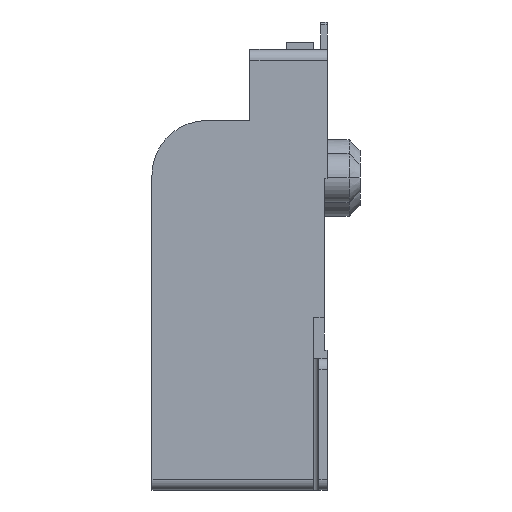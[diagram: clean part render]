
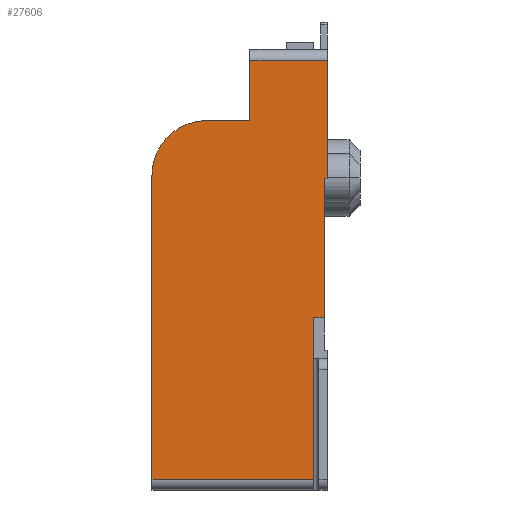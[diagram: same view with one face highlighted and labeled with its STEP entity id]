
A CAD part, left-side view. The second image highlights one B-rep face of the part: STEP entity #27606.
In plain terms, the highlighted planar face has unit normal (-1, 0, 0).
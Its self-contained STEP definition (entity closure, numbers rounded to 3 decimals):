
#1=CARTESIAN_POINT('',(-11.,2.2,1.8));
#2=DIRECTION('',(1.,0.,0.));
#3=DIRECTION('',(0.,1.,0.));
#4=AXIS2_PLACEMENT_3D('',#1,#2,#3);
#6=DIRECTION('',(0.,1.,0.));
#7=VECTOR('',#6,0.05);
#8=CARTESIAN_POINT('',(-11.,0.,1.75));
#9=LINE('',#8,#7);
#10=DIRECTION('',(0.,1.,0.));
#11=VECTOR('',#10,0.2);
#12=CARTESIAN_POINT('',(-11.,0.05,-0.8));
#13=LINE('',#12,#11);
#19=DIRECTION('',(0.,0.,1.));
#20=VECTOR('',#19,2.95);
#21=CARTESIAN_POINT('',(-11.,0.25,-3.75));
#22=LINE('',#21,#20);
#771=DIRECTION('',(0.,0.,1.));
#772=VECTOR('',#771,2.55);
#773=CARTESIAN_POINT('',(-11.,0.05,-0.8));
#774=LINE('',#773,#772);
#5215=DIRECTION('',(0.,0.,-1.));
#5216=VECTOR('',#5215,1.1);
#5217=CARTESIAN_POINT('',(-11.,1.41,3.9));
#5218=LINE('',#5217,#5216);
#5938=DIRECTION('',(0.,1.,0.));
#5939=VECTOR('',#5938,0.79);
#5940=CARTESIAN_POINT('',(-11.,1.41,2.8));
#5941=LINE('',#5940,#5939);
#5954=DIRECTION('',(0.,0.,-1.));
#5955=VECTOR('',#5954,5.55);
#5956=CARTESIAN_POINT('',(-11.,3.2,1.8));
#5957=LINE('',#5956,#5955);
#6024=DIRECTION('',(0.,-1.,0.));
#6025=VECTOR('',#6024,2.95);
#6026=CARTESIAN_POINT('',(-11.,3.2,-3.75));
#6027=LINE('',#6026,#6025);
#12967=DIRECTION('',(0.,1.,0.));
#12968=VECTOR('',#12967,1.41);
#12969=CARTESIAN_POINT('',(-11.,0.,3.9));
#12970=LINE('',#12969,#12968);
#12975=DIRECTION('',(0.,0.,1.));
#12976=VECTOR('',#12975,2.15);
#12977=CARTESIAN_POINT('',(-11.,0.,1.75));
#12978=LINE('',#12977,#12976);
#21112=CARTESIAN_POINT('',(-11.,0.25,-3.75));
#21113=CARTESIAN_POINT('',(-11.,0.25,-0.8));
#21114=VERTEX_POINT('',#21112);
#21115=VERTEX_POINT('',#21113);
#21116=CARTESIAN_POINT('',(-11.,3.2,-3.75));
#21117=VERTEX_POINT('',#21116);
#21118=CARTESIAN_POINT('',(-11.,3.2,1.8));
#21119=VERTEX_POINT('',#21118);
#21120=CARTESIAN_POINT('',(-11.,2.2,2.8));
#21121=VERTEX_POINT('',#21120);
#21122=CARTESIAN_POINT('',(-11.,1.41,2.8));
#21123=VERTEX_POINT('',#21122);
#21124=CARTESIAN_POINT('',(-11.,1.41,3.9));
#21125=VERTEX_POINT('',#21124);
#21126=CARTESIAN_POINT('',(-11.,0.,3.9));
#21127=VERTEX_POINT('',#21126);
#21128=CARTESIAN_POINT('',(-11.,0.,1.75));
#21129=VERTEX_POINT('',#21128);
#21130=CARTESIAN_POINT('',(-11.,0.05,1.75));
#21131=VERTEX_POINT('',#21130);
#21132=CARTESIAN_POINT('',(-11.,0.05,-0.8));
#21133=VERTEX_POINT('',#21132);
#27577=CARTESIAN_POINT('',(-11.,1.6,0.075));
#27578=DIRECTION('',(1.,0.,0.));
#27579=DIRECTION('',(0.,0.,-1.));
#27580=AXIS2_PLACEMENT_3D('',#27577,#27578,#27579);
#27581=PLANE('',#27580);
#27583=ORIENTED_EDGE('',*,*,#27582,.F.);
#27585=ORIENTED_EDGE('',*,*,#27584,.F.);
#27587=ORIENTED_EDGE('',*,*,#27586,.F.);
#27589=ORIENTED_EDGE('',*,*,#27588,.T.);
#27591=ORIENTED_EDGE('',*,*,#27590,.F.);
#27593=ORIENTED_EDGE('',*,*,#27592,.F.);
#27595=ORIENTED_EDGE('',*,*,#27594,.F.);
#27597=ORIENTED_EDGE('',*,*,#27596,.F.);
#27599=ORIENTED_EDGE('',*,*,#27598,.T.);
#27601=ORIENTED_EDGE('',*,*,#27600,.F.);
#27603=ORIENTED_EDGE('',*,*,#27602,.T.);
#27604=EDGE_LOOP('',(#27583,#27585,#27587,#27589,#27591,#27593,#27595,#27597,
#27599,#27601,#27603));
#27605=FACE_OUTER_BOUND('',#27604,.F.);
#27606=ADVANCED_FACE('',(#27605),#27581,.F.);
#5=CIRCLE('',#4,1.);
#27582=EDGE_CURVE('',#21114,#21115,#22,.T.);
#27584=EDGE_CURVE('',#21117,#21114,#6027,.T.);
#27586=EDGE_CURVE('',#21119,#21117,#5957,.T.);
#27588=EDGE_CURVE('',#21119,#21121,#5,.T.);
#27590=EDGE_CURVE('',#21123,#21121,#5941,.T.);
#27592=EDGE_CURVE('',#21125,#21123,#5218,.T.);
#27594=EDGE_CURVE('',#21127,#21125,#12970,.T.);
#27596=EDGE_CURVE('',#21129,#21127,#12978,.T.);
#27598=EDGE_CURVE('',#21129,#21131,#9,.T.);
#27600=EDGE_CURVE('',#21133,#21131,#774,.T.);
#27602=EDGE_CURVE('',#21133,#21115,#13,.T.);
